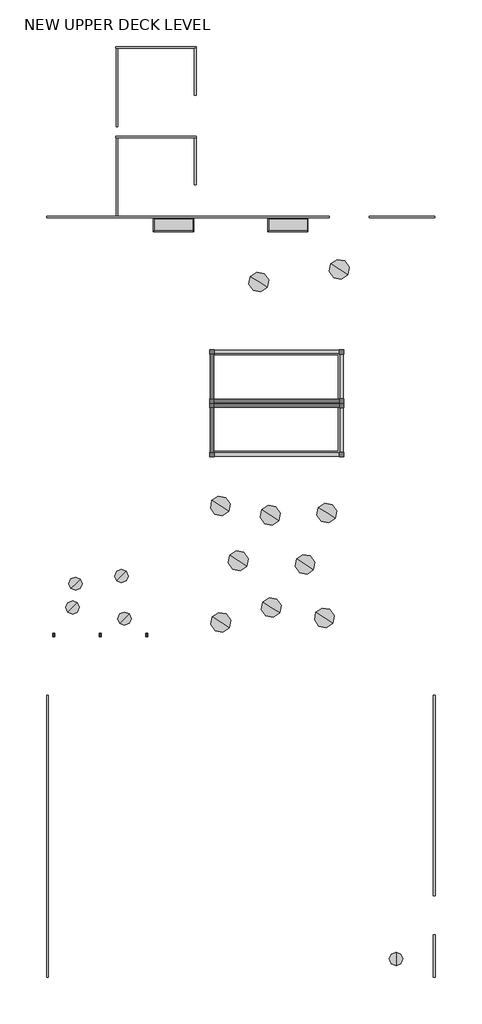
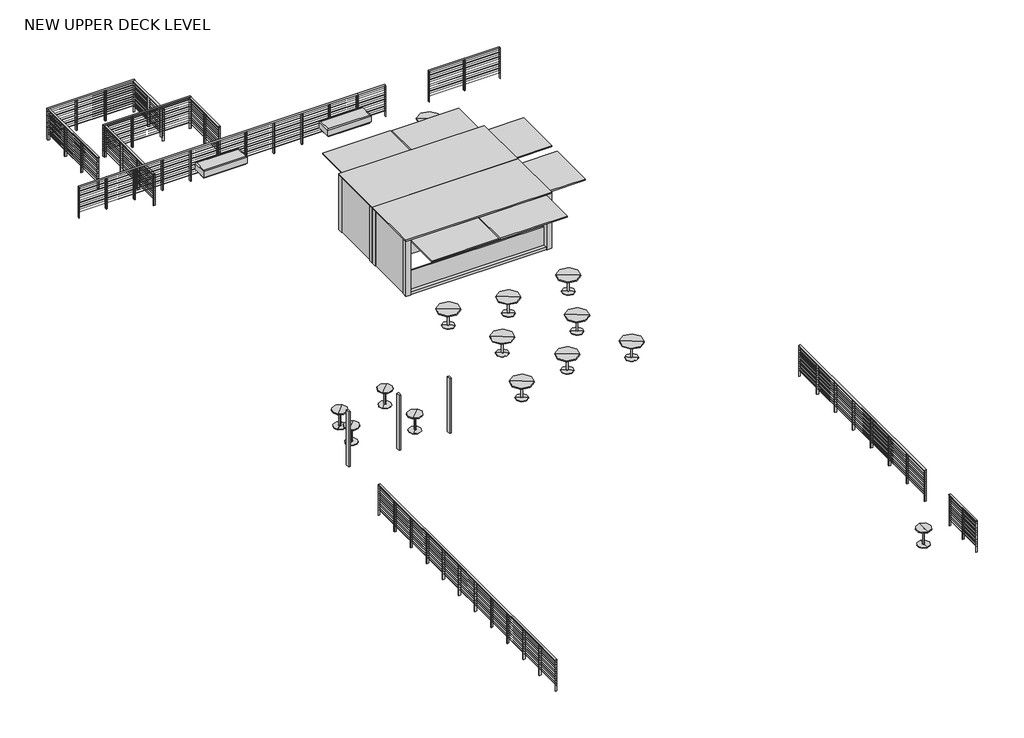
# One storey, incomplete: 17 furniture elements, 11 railings, 3 columns, 2 proxies.
"""IFC4 building model written with IfcOpenShell, lengths in millimetres."""

from ifc_helpers import new_model, si_unit, origin, place, context, project, spatial, transform, mapped, element, save
from components import generic_models_4_generic_models_1_bd5a4ce0, generic_models_5_generic_models_1_d00e9448, planter_post_planter_post_0c11f8d3, planter_post1_planter_post_7fd84948, seating_lounge_ottoman_w600xd600_d2cb215e, furniture_4a67c233, furniture_0465b0ec, cable_guard_rail_r3_a83c2a6b, cable_guard_rail_r3_615c44c9, cable_guard_rail_r3_f7cf98e5, cable_guard_rail_r3_09486a46, cable_guard_rail_r3_9c4b2342, cable_guard_rail_r3_4fa281bc, cable_guard_rail_r3_ffb90caa, cable_guard_rail_r3_d2870440, cable_guard_rail_r3_a1fcecac, cable_guard_rail_r3_fa116302, cable_guard_rail_r3_025c379d

model = new_model("IFC4")

# Units and contexts
model_context = context("Model", 3, world=origin())
ifc_project = project(units=[si_unit("LENGTHUNIT", "METRE", prefix="MILLI")], contexts=[model_context])

# Site, building, storey
site = spatial("IfcSite", under=ifc_project)
building = spatial("IfcBuilding", under=site)
storey = spatial("IfcBuildingStorey", under=building, Name="NEW UPPER DECK LEVEL", Elevation=294982.9)

# Proxies
placement = place(None, origin())
generic_models_4_generic_models_1_shape = generic_models_4_generic_models_1_bd5a4ce0(model_context)
element("IfcBuildingElementProxy", 1, Name="Generic Models 4 : Generic Models 1", ObjectType="Generic Models 4 : Generic Models 1", at=placement, inside=storey, context=model_context, shape_type="MappedRepresentation", body=[
    mapped(generic_models_4_generic_models_1_shape, transform((-90509.6217486, 12089.9570867, 291541.3658347), x_axis=(1.0, 0.0, 0.0), y_axis=(0.0, 1.0, 0.0), z_axis=(0.0, 0.0, 1.0))),
])
generic_models_5_generic_models_1_shape = generic_models_5_generic_models_1_d00e9448(model_context)
element("IfcBuildingElementProxy", 2, Name="Generic Models 5 : Generic Models 1", ObjectType="Generic Models 5 : Generic Models 1", at=placement, inside=storey, context=model_context, shape_type="MappedRepresentation", body=[
    mapped(generic_models_5_generic_models_1_shape, transform((-90509.6217486, 57925.1709569, 291541.3658347), x_axis=(1.0, 0.0, 0.0), y_axis=(0.0, 1.0, 0.0), z_axis=(0.0, 0.0, 1.0))),
])

# Columns
planter_post_planter_post_shape = planter_post_planter_post_0c11f8d3(model_context)
element("IfcColumn", 3, ObjectType="planter post : planter post", at=placement, inside=storey, context=model_context, shape_type="MappedRepresentation", body=[
    mapped(planter_post_planter_post_shape, transform((-30.1625, 35.5287433, 0.0), x_axis=(1.0, 0.0, 0.0), y_axis=(0.0, 1.0, 0.0), z_axis=(0.0, 0.0, 1.0))),
])
planter_post1_planter_post_shape = planter_post1_planter_post_7fd84948(model_context)
element("IfcColumn", 4, ObjectType="planter post1 : planter post", at=placement, inside=storey, context=model_context, shape_type="MappedRepresentation", body=[
    mapped(planter_post1_planter_post_shape, transform((30.1625, 35.5287433, 0.0), x_axis=(1.0, 0.0, 0.0), y_axis=(0.0, 1.0, 0.0), z_axis=(0.0, 0.0, 1.0))),
])
element("IfcColumn", 5, ObjectType="planter post2 : planter post", at=placement, inside=storey, context=model_context, shape_type="MappedRepresentation", body=[
    mapped(planter_post1_planter_post_shape, transform((2146.3, 35.5287433, 0.0), x_axis=(1.0, 0.0, 0.0), y_axis=(0.0, 1.0, 0.0), z_axis=(0.0, 0.0, 1.0))),
])

# Furniture
seating_lounge_ottoman_w600xd600_shape = seating_lounge_ottoman_w600xd600_d2cb215e(model_context)
element("IfcFurniture", 6, ObjectType="Seating - Lounge_Ottoman : W600XD600", at=placement, inside=storey, context=model_context, shape_type="MappedRepresentation", body=[
    mapped(seating_lounge_ottoman_w600xd600_shape, transform((28165.4728313, 222459.8579552, 294982.9), x_axis=(-1.0, 0.0, 0.0), y_axis=(0.0, -1.0, 0.0), z_axis=(0.0, 0.0, 1.0))),
])
element("IfcFurniture", 7, ObjectType="Seating - Lounge_Ottoman : W600XD600", at=placement, inside=storey, context=model_context, shape_type="MappedRepresentation", body=[
    mapped(seating_lounge_ottoman_w600xd600_shape, transform((33372.219143, 222459.8579552, 294982.9), x_axis=(-1.0, 0.0, 0.0), y_axis=(0.0, -1.0, 0.0), z_axis=(0.0, 0.0, 1.0))),
])
furniture_shape = furniture_4a67c233(model_context)
element("IfcFurniture", 8, ObjectType="Table - Round-01 : 24\" Dia Collaboration", at=placement, inside=storey, context=model_context, shape_type="MappedRepresentation", body=[
    mapped(furniture_shape, transform((38303.3304218, 189061.4312306, 294982.9), x_axis=(0.0, 1.0, 0.0), y_axis=(-1.0, 0.0, 0.0), z_axis=(0.0, 0.0, 1.0))),
])
element("IfcFurniture", 9, ObjectType="Table - Round-01 : 24\" Dia Collaboration", at=placement, inside=storey, context=model_context, shape_type="MappedRepresentation", body=[
    mapped(furniture_shape, transform((23710.1086287, 206139.1480371, 294982.9), x_axis=(0.7096821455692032, 0.7045220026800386, 0.0), y_axis=(-0.7045220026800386, 0.7096821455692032, 0.0), z_axis=(0.0, 0.0, 1.0))),
])
element("IfcFurniture", 10, ObjectType="Table - Round-01 : 24\" Dia Collaboration", at=placement, inside=storey, context=model_context, shape_type="MappedRepresentation", body=[
    mapped(furniture_shape, transform((25795.7496358, 206482.2325536, 294982.9), x_axis=(-0.7096821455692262, -0.7045220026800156, 0.0), y_axis=(0.7045220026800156, -0.7096821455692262, 0.0), z_axis=(0.0, 0.0, 1.0))),
])
element("IfcFurniture", 11, ObjectType="Table - Round-01 : 24\" Dia Collaboration", at=placement, inside=storey, context=model_context, shape_type="MappedRepresentation", body=[
    mapped(furniture_shape, transform((23576.9779793, 205063.4312306, 294982.9), x_axis=(-0.7096821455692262, -0.7045220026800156, 0.0), y_axis=(0.7045220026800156, -0.7096821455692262, 0.0), z_axis=(0.0, 0.0, 1.0))),
])
element("IfcFurniture", 12, ObjectType="Table - Round-01 : 24\" Dia Collaboration", at=placement, inside=storey, context=model_context, shape_type="MappedRepresentation", body=[
    mapped(furniture_shape, transform((25936.414703, 204546.5710497, 294982.9), x_axis=(0.7096821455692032, 0.7045220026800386, 0.0), y_axis=(-0.7045220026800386, 0.7096821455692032, 0.0), z_axis=(0.0, 0.0, 1.0))),
])
furniture_2_shape = furniture_0465b0ec(model_context)
element("IfcFurniture", 13, ObjectType="Table - Round-01 : 36\" Dia Collaboration", at=placement, inside=storey, context=model_context, shape_type="MappedRepresentation", body=[
    mapped(furniture_2_shape, transform((35710.3924622, 220444.4007531, 294982.9), x_axis=(0.838670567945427, -0.5446390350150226, 0.0), y_axis=(0.5446390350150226, 0.838670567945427, 0.0), z_axis=(0.0, 0.0, 1.0))),
])
element("IfcFurniture", 14, ObjectType="Table - Round-01 : 36\" Dia Collaboration", at=placement, inside=storey, context=model_context, shape_type="MappedRepresentation", body=[
    mapped(furniture_2_shape, transform((32046.4096064, 219871.8039832, 294982.9), x_axis=(0.838670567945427, -0.5446390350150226, 0.0), y_axis=(0.5446390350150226, 0.838670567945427, 0.0), z_axis=(0.0, 0.0, 1.0))),
])
element("IfcFurniture", 15, ObjectType="Table - Round-01 : 36\" Dia Collaboration", at=placement, inside=storey, context=model_context, shape_type="MappedRepresentation", body=[
    mapped(furniture_2_shape, transform((35142.7851715, 209358.6945428, 294982.9), x_axis=(0.838670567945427, -0.5446390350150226, 0.0), y_axis=(0.5446390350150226, 0.838670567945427, 0.0), z_axis=(0.0, 0.0, 1.0))),
])
element("IfcFurniture", 16, ObjectType="Table - Round-01 : 36\" Dia Collaboration", at=placement, inside=storey, context=model_context, shape_type="MappedRepresentation", body=[
    mapped(furniture_2_shape, transform((32569.8168201, 209253.4075479, 294982.9), x_axis=(0.838670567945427, -0.5446390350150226, 0.0), y_axis=(0.5446390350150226, 0.838670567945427, 0.0), z_axis=(0.0, 0.0, 1.0))),
])
element("IfcFurniture", 17, ObjectType="Table - Round-01 : 36\" Dia Collaboration", at=placement, inside=storey, context=model_context, shape_type="MappedRepresentation", body=[
    mapped(furniture_2_shape, transform((31118.7773617, 207184.8621826, 294982.9), x_axis=(0.838670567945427, -0.5446390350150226, 0.0), y_axis=(0.5446390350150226, 0.838670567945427, 0.0), z_axis=(0.0, 0.0, 1.0))),
])
element("IfcFurniture", 18, ObjectType="Table - Round-01 : 36\" Dia Collaboration", at=placement, inside=storey, context=model_context, shape_type="MappedRepresentation", body=[
    mapped(furniture_2_shape, transform((34152.1851715, 207021.8945428, 294982.9), x_axis=(0.838670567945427, -0.5446390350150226, 0.0), y_axis=(0.5446390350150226, 0.838670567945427, 0.0), z_axis=(0.0, 0.0, 1.0))),
])
element("IfcFurniture", 19, ObjectType="Table - Round-01 : 36\" Dia Collaboration", at=placement, inside=storey, context=model_context, shape_type="MappedRepresentation", body=[
    mapped(furniture_2_shape, transform((30301.5442593, 209678.0311028, 294982.9), x_axis=(0.838670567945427, -0.5446390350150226, 0.0), y_axis=(0.5446390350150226, 0.838670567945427, 0.0), z_axis=(0.0, 0.0, 1.0))),
])
element("IfcFurniture", 20, ObjectType="Table - Round-01 : 36\" Dia Collaboration", at=placement, inside=storey, context=model_context, shape_type="MappedRepresentation", body=[
    mapped(furniture_2_shape, transform((35036.6380731, 204587.1434047, 294982.9), x_axis=(0.838670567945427, -0.5446390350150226, 0.0), y_axis=(0.5446390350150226, 0.838670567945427, 0.0), z_axis=(0.0, 0.0, 1.0))),
])
element("IfcFurniture", 21, ObjectType="Table - Round-01 : 36\" Dia Collaboration", at=placement, inside=storey, context=model_context, shape_type="MappedRepresentation", body=[
    mapped(furniture_2_shape, transform((32615.0175217, 205056.6792893, 294982.9), x_axis=(0.838670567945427, -0.5446390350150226, 0.0), y_axis=(0.5446390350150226, 0.838670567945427, 0.0), z_axis=(0.0, 0.0, 1.0))),
])
element("IfcFurniture", 22, ObjectType="Table - Round-01 : 36\" Dia Collaboration", at=placement, inside=storey, context=model_context, shape_type="MappedRepresentation", body=[
    mapped(furniture_2_shape, transform((30315.844081, 204381.1650051, 294982.9), x_axis=(0.838670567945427, -0.5446390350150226, 0.0), y_axis=(0.5446390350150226, 0.838670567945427, 0.0), z_axis=(0.0, 0.0, 1.0))),
])

# Railings
cable_guard_rail_r3_shape = cable_guard_rail_r3_a83c2a6b(model_context)
element("IfcRailing", 23, ObjectType="Cable Guard Rail - R3", at=placement, inside=storey, context=model_context, shape_type="MappedRepresentation", body=[
    mapped(cable_guard_rail_r3_shape, transform((0.0, 0.0, 0.0), x_axis=(1.0, 0.0, 0.0), y_axis=(0.0, 1.0, 0.0), z_axis=(0.0, 0.0, 1.0))),
])
cable_guard_rail_r3_2_shape = cable_guard_rail_r3_615c44c9(model_context)
element("IfcRailing", 24, ObjectType="Cable Guard Rail - R3", at=placement, inside=storey, context=model_context, shape_type="MappedRepresentation", body=[
    mapped(cable_guard_rail_r3_2_shape, transform((0.0, 0.0, 0.0), x_axis=(1.0, 0.0, 0.0), y_axis=(0.0, 1.0, 0.0), z_axis=(0.0, 0.0, 1.0))),
])
cable_guard_rail_r3_3_shape = cable_guard_rail_r3_f7cf98e5(model_context)
element("IfcRailing", 25, ObjectType="Cable Guard Rail - R3", at=placement, inside=storey, context=model_context, shape_type="MappedRepresentation", body=[
    mapped(cable_guard_rail_r3_3_shape, transform((0.0, 0.0, 0.0), x_axis=(1.0, 0.0, 0.0), y_axis=(0.0, 1.0, 0.0), z_axis=(0.0, 0.0, 1.0))),
])
cable_guard_rail_r3_4_shape = cable_guard_rail_r3_09486a46(model_context)
element("IfcRailing", 26, ObjectType="Cable Guard Rail - R3", at=placement, inside=storey, context=model_context, shape_type="MappedRepresentation", body=[
    mapped(cable_guard_rail_r3_4_shape, transform((0.0, 0.0, 0.0), x_axis=(1.0, 0.0, 0.0), y_axis=(0.0, 1.0, 0.0), z_axis=(0.0, 0.0, 1.0))),
])
cable_guard_rail_r3_5_shape = cable_guard_rail_r3_9c4b2342(model_context)
element("IfcRailing", 27, ObjectType="Cable Guard Rail - R3", at=placement, inside=storey, context=model_context, shape_type="MappedRepresentation", body=[
    mapped(cable_guard_rail_r3_5_shape, transform((0.0, 0.0, 0.0), x_axis=(1.0, 0.0, 0.0), y_axis=(0.0, 1.0, 0.0), z_axis=(0.0, 0.0, 1.0))),
])
cable_guard_rail_r3_6_shape = cable_guard_rail_r3_4fa281bc(model_context)
element("IfcRailing", 28, ObjectType="Cable Guard Rail - R3", at=placement, inside=storey, context=model_context, shape_type="MappedRepresentation", body=[
    mapped(cable_guard_rail_r3_6_shape, transform((0.0, 0.0, 0.0), x_axis=(1.0, 0.0, 0.0), y_axis=(0.0, 1.0, 0.0), z_axis=(0.0, 0.0, 1.0))),
])
cable_guard_rail_r3_7_shape = cable_guard_rail_r3_ffb90caa(model_context)
element("IfcRailing", 29, ObjectType="Cable Guard Rail - R3", at=placement, inside=storey, context=model_context, shape_type="MappedRepresentation", body=[
    mapped(cable_guard_rail_r3_7_shape, transform((0.0, 0.0, 0.0), x_axis=(1.0, 0.0, 0.0), y_axis=(0.0, 1.0, 0.0), z_axis=(0.0, 0.0, 1.0))),
])
cable_guard_rail_r3_8_shape = cable_guard_rail_r3_d2870440(model_context)
element("IfcRailing", 30, ObjectType="Cable Guard Rail - R3", at=placement, inside=storey, context=model_context, shape_type="MappedRepresentation", body=[
    mapped(cable_guard_rail_r3_8_shape, transform((0.0, 0.0, 0.0), x_axis=(1.0, 0.0, 0.0), y_axis=(0.0, 1.0, 0.0), z_axis=(0.0, 0.0, 1.0))),
])
cable_guard_rail_r3_9_shape = cable_guard_rail_r3_a1fcecac(model_context)
element("IfcRailing", 31, ObjectType="Cable Guard Rail - R3", at=placement, inside=storey, context=model_context, shape_type="MappedRepresentation", body=[
    mapped(cable_guard_rail_r3_9_shape, transform((0.0, 0.0, 0.0), x_axis=(1.0, 0.0, 0.0), y_axis=(0.0, 1.0, 0.0), z_axis=(0.0, 0.0, 1.0))),
])
cable_guard_rail_r3_10_shape = cable_guard_rail_r3_fa116302(model_context)
element("IfcRailing", 32, ObjectType="Cable Guard Rail - R3", at=placement, inside=storey, context=model_context, shape_type="MappedRepresentation", body=[
    mapped(cable_guard_rail_r3_10_shape, transform((0.0, 0.0, 0.0), x_axis=(1.0, 0.0, 0.0), y_axis=(0.0, 1.0, 0.0), z_axis=(0.0, 0.0, 1.0))),
])
cable_guard_rail_r3_11_shape = cable_guard_rail_r3_025c379d(model_context)
element("IfcRailing", 33, ObjectType="Cable Guard Rail - R3", at=placement, inside=storey, context=model_context, shape_type="MappedRepresentation", body=[
    mapped(cable_guard_rail_r3_11_shape, transform((0.0, 0.0, 0.0), x_axis=(1.0, 0.0, 0.0), y_axis=(0.0, 1.0, 0.0), z_axis=(0.0, 0.0, 1.0))),
])

save(model, "model.ifc")
